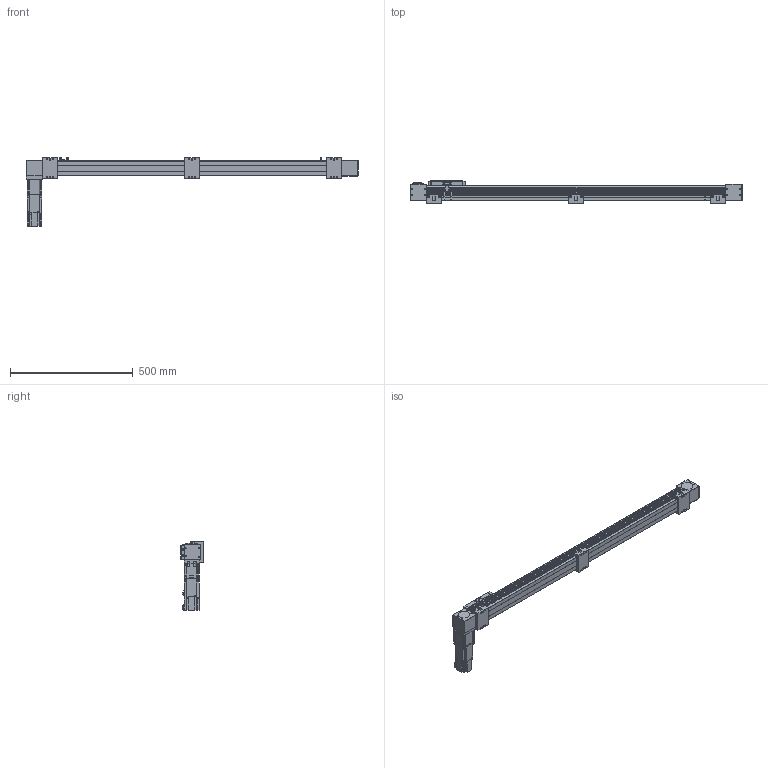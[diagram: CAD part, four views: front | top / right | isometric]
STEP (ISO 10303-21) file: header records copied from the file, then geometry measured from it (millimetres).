
FILE_DESCRIPTION(/* description */ ('STEP AP203'),/* implementation_level */ '2;1');
FILE_NAME(/* name */ 'SK60-P13-S1050-BR-T40-C1-N(0)',/* time_stamp */ '2023-04-06T03:59:41+02:00',/* author */ ('License CC BY-ND 4.0'),/* organization */ ('CADENAS'),/* preprocessor_version */ 'ST-DEVELOPER v19.3',/* originating_system */ 'PARTsolutions',/* authorisation */ ' ');
FILE_SCHEMA (('CONFIG_CONTROL_DESIGN'));
Length unit declared in the file: millimetre
Products named in the file (11): SK60-P13-S1050-BR-T40-C1-N(0); PSC140-sensor; SK60-S450_seat; SK60-S450-BL-C1_slider; SK60_body3; SK60_body6; SK60-BL_body2; T40-p1; SK60_body5; SK60_body4; SK60-S1050-BR-C1_body
Assembly tree (18 placements, depth 2):
  SK60-P13-S1050-BR-T40-C1-N(0)
    PSC140-sensor  x3
    SK60-S450_seat  x3
    SK60-S450-BL-C1_slider
    SK60_body3  x3
    SK60_body6  x2
    SK60-BL_body2  x2
    T40-p1
    SK60_body5
    SK60_body4
    SK60-S1050-BR-C1_body
Bounding box: 1350 x 90 x 279.1 mm (x, y, z)
Volume: 5221562.1 mm3; surface area: 704960.5 mm2
Topology: 18 solids, 22 shells, 878 faces, 2207 edges, 1458 vertices
Faces by surface type: plane 568, cylinder 282, cone 26, torus 2
Full cylindrical faces by diameter (mm): 2.8 x3, 3.3 x4, 4.2 x8, 4.5 x26, 4.6 x3, 4.917 x20, 5 x2, 5.478 x4, 5.5 x23, 6.5 x6, 8 x4, 8.5 x4, 9.988 x4, 10 x12, 13.556 x1, 14 x1, 14.586 x1, 19.692 x1, 38.432 x2, 43 x1, 44 x3, 47 x2, 50 x2
Entity records: 19379 total; most frequent: DIRECTION 3294, CARTESIAN_POINT 3290, ORIENTED_EDGE 3050, EDGE_CURVE 1525, AXIS2_PLACEMENT_3D 1101, LINE 1092, VECTOR 1092, VERTEX_POINT 1077
